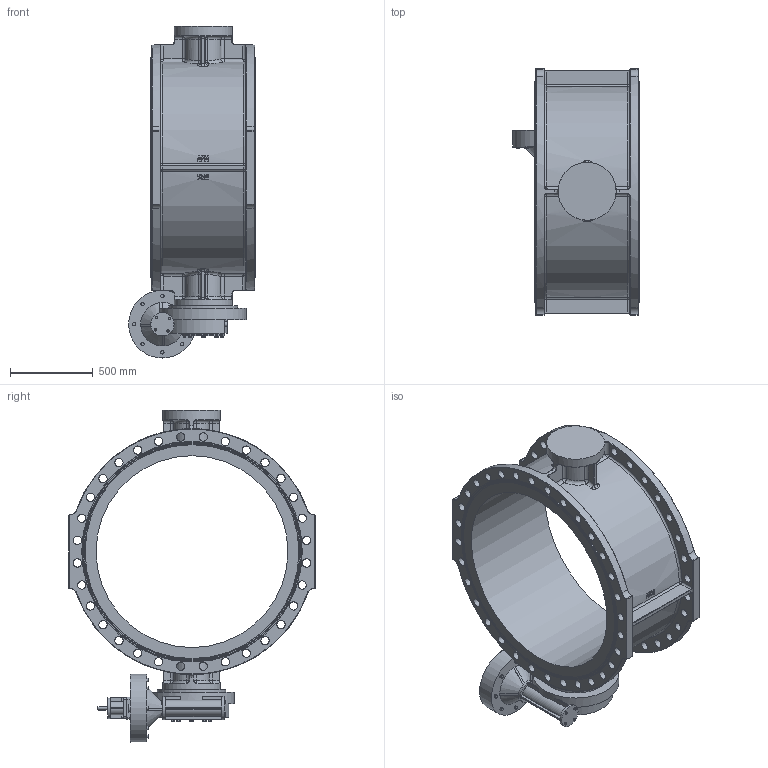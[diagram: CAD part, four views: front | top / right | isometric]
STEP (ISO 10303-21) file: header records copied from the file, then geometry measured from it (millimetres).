
FILE_DESCRIPTION (( 'STEP AP203' ), '1' );
FILE_NAME ('O_756_1_DN1200_11XX02_AA0.step', '2019-12-19T10:53:20', ( 'Windows User' ), ( 'AVK' ), 'SwSTEP 2.0', 'SolidWorks 2012', '' );
FILE_SCHEMA (( 'CONFIG_CONTROL_DESIGN' ));
Length unit declared in the file: millimetre
Products named in the file (1): O_756_1_DN1200_11XX02_AA0
Bounding box: 765 x 1485 x 2004 mm (x, y, z)
Volume: 259250852.6 mm3; surface area: 9462671.6 mm2
Topology: 1 solids, 1 shells, 1309 faces, 3334 edges, 2048 vertices
Faces by surface type: plane 412, cylinder 357, bspline 332, torus 112, sphere 80, cone 16
Full cylindrical faces by diameter (mm): 10 x4, 11 x4, 15 x16, 20 x9, 30 x2, 45.319 x1, 49.838 x1, 50 x64, 68.015 x1, 125 x1, 140 x1, 240 x1, 252.506 x1, 350 x2, 408 x1, 415 x1, 520 x1, 1158 x1, 1328 x2
Entity records: 55369 total; most frequent: CARTESIAN_POINT 27238, ORIENTED_EDGE 6134, DIRECTION 5008, EDGE_CURVE 3067, AXIS2_PLACEMENT_3D 1999, VERTEX_POINT 1967, EDGE_LOOP 1664, FACE_OUTER_BOUND 1426
